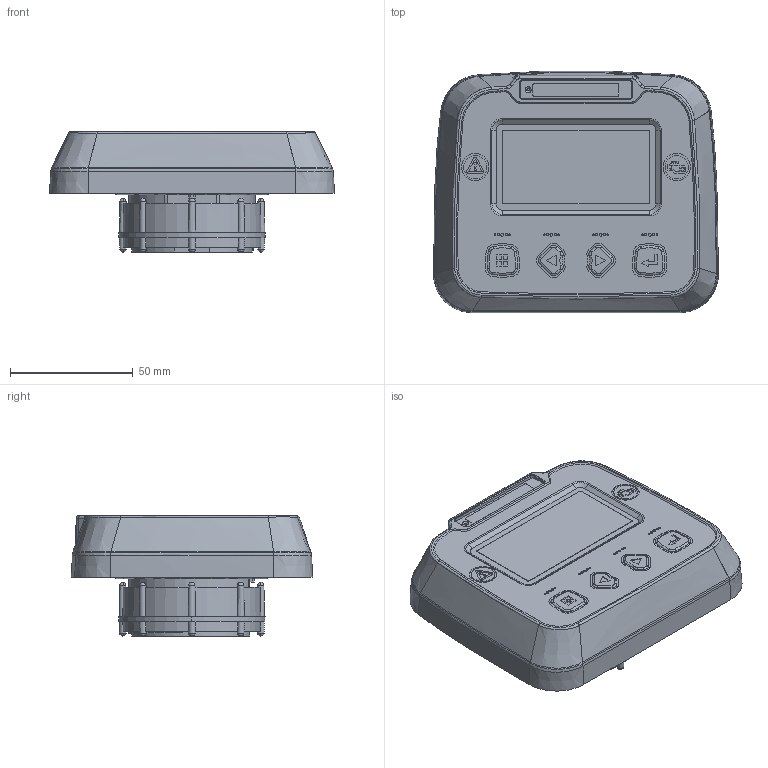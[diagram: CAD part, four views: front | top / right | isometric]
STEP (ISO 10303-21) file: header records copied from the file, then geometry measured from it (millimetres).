
FILE_DESCRIPTION((''),'2;1');
FILE_NAME('WKQ','2024-04-25T13:38:27',('Administrator'),(''),'CREO PARAMETRIC BY PTC INC, 2019010','CREO PARAMETRIC BY PTC INC, 2019010','');
FILE_SCHEMA(('AUTOMOTIVE_DESIGN { 1 0 10303 214 1 1 1 1 }'));
Products named in the file (1): WKQ
Bounding box: 116 x 98.29 x 49.1 mm (x, y, z)
Volume: 260737 mm3; surface area: 80325.2 mm2
Topology: 2 solids, 16 shells, 1266 faces, 3259 edges, 2095 vertices
Faces by surface type: plane 558, cylinder 216, cone 197, bspline 157, extrusion 74, torus 40, sphere 24
Entity records: 57845 total; most frequent: CARTESIAN_POINT 19495, ORIENTED_EDGE 6440, DIRECTION 5691, EDGE_CURVE 3235, VERTEX_POINT 2095, AXIS2_PLACEMENT_3D 2026, VECTOR 1639, LINE 1565
